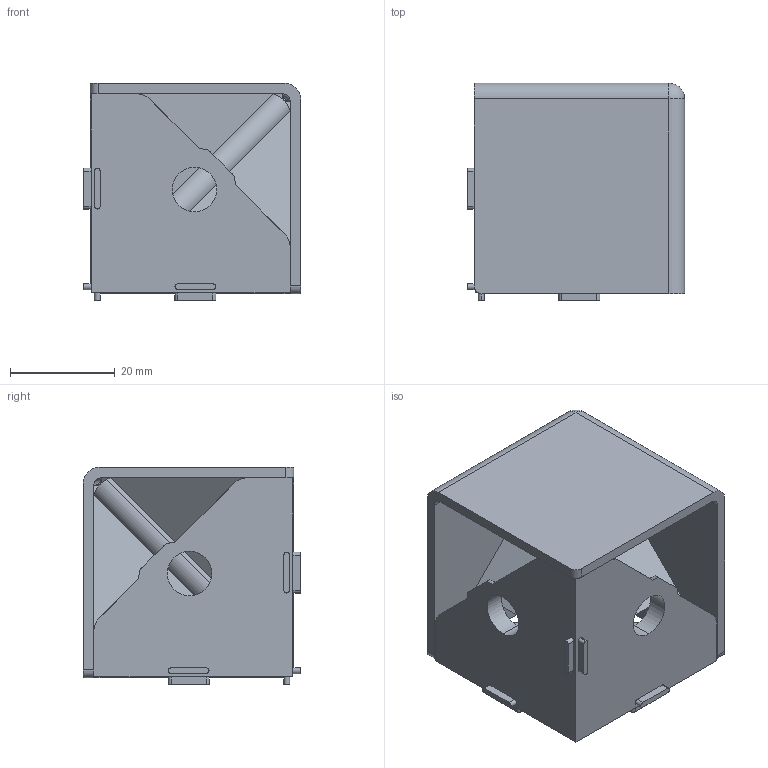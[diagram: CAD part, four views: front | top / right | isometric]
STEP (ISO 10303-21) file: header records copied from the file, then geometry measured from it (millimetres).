
FILE_DESCRIPTION (( 'STEP AP214' ), '1' );
FILE_NAME ('2146.STEP', '2022-10-18T12:04:20', ( '' ), ( '' ), 'SwSTEP 2.0', 'SolidWorks 2020', '' );
FILE_SCHEMA (( 'AUTOMOTIVE_DESIGN' ));
Length unit declared in the file: millimetre
Products named in the file (3): 2146; 2146 諘蜱齁罻
Assembly tree (2 placements, depth 2):
  2146
    2146
    2146 諘蜱齁罻
Bounding box: 41.5 x 41.5 x 41.5 mm (x, y, z)
Volume: 21599.3 mm3; surface area: 19907.1 mm2
Topology: 13 solids, 13 shells, 267 faces, 671 edges, 430 vertices
Faces by surface type: plane 185, cylinder 48, bspline 32, sphere 2
Entity records: 10986 total; most frequent: CARTESIAN_POINT 3364, ORIENTED_EDGE 1338, DIRECTION 1181, EDGE_CURVE 669, LINE 503, VECTOR 503, VERTEX_POINT 430, AXIS2_PLACEMENT_3D 339
